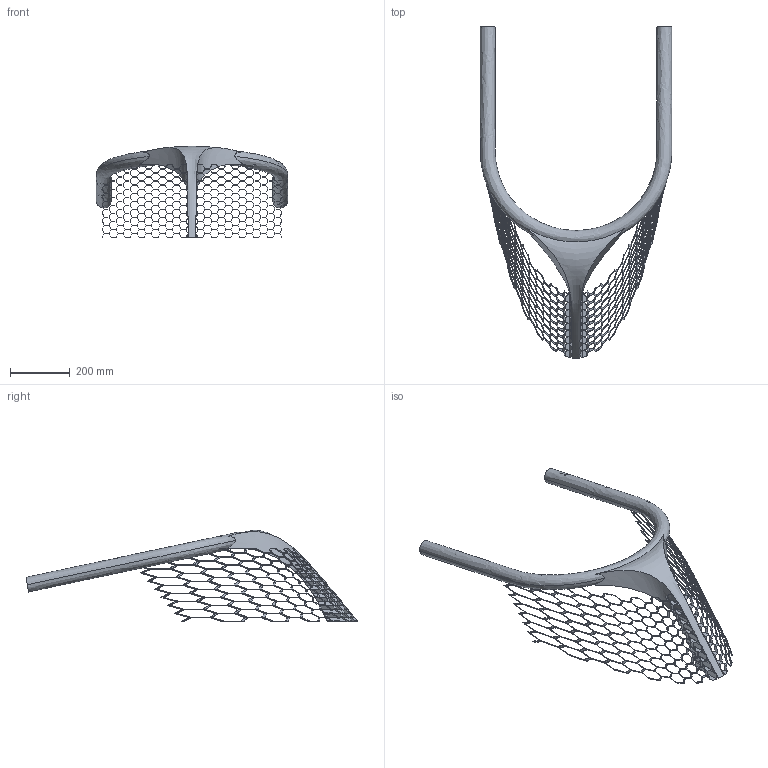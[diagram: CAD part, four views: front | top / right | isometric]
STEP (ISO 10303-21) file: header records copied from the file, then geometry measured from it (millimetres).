
FILE_DESCRIPTION(/* description */ (''),/* implementation_level */ '2;1');
FILE_NAME(/* name */ 'HaloCage_v0.step',/* time_stamp */ '2024-07-15T12:00:03-07:00',/* author */ (''),/* organization */ (''),/* preprocessor_version */ 'ST-DEVELOPER v20',/* originating_system */ 'Autodesk Translation Framework v13.14.0.145',/* authorisation */ '');
FILE_SCHEMA (('AUTOMOTIVE_DESIGN { 1 0 10303 214 3 1 1 }'));
Products named in the file (1): HALO_3
Bounding box: 640 x 1109.89 x 305.45 mm (x, y, z)
Volume: 5091944 mm3; surface area: 640428.1 mm2
Topology: 3 solids, 3 shells, 1541 faces, 4809 edges, 3206 vertices
Faces by surface type: plane 1455, bspline 86
Entity records: 102312 total; most frequent: CARTESIAN_POINT 65720, ORIENTED_EDGE 9618, EDGE_CURVE 4809, DIRECTION 4402, B_SPLINE_CURVE_WITH_KNOTS 3319, VERTEX_POINT 3206, EDGE_LOOP 1845, FACE_OUTER_BOUND 1541
